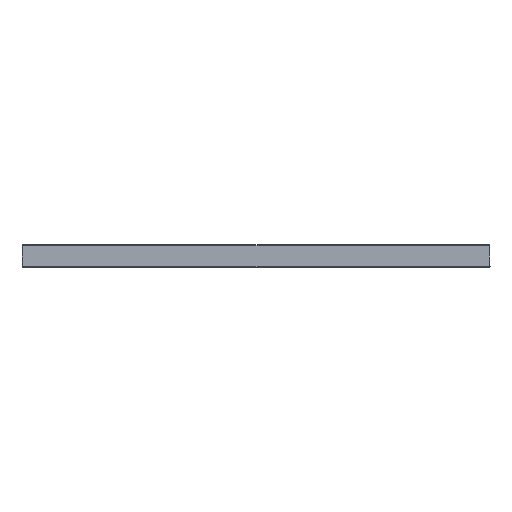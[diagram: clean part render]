
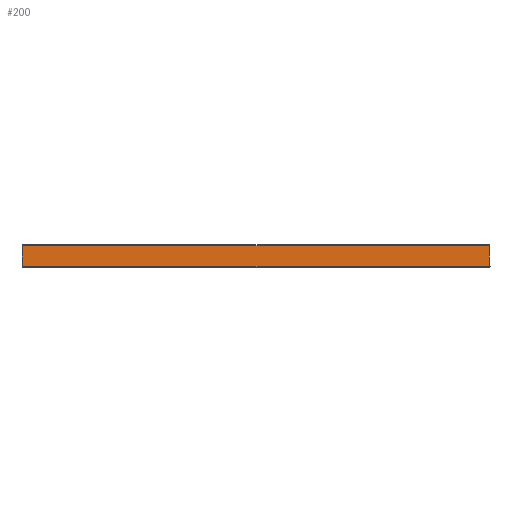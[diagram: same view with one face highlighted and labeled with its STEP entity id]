
A CAD part, front view. The second image highlights one B-rep face of the part: STEP entity #200.
In plain terms, the highlighted planar face has unit normal (0, -1, 0.009).
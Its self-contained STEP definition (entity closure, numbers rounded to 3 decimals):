
#200=ADVANCED_FACE('',(#271),#258,.T.);
#258=PLANE('',#880);
#271=FACE_OUTER_BOUND('',#323,.T.);
#323=EDGE_LOOP('',(#389,#390,#391,#392));
#389=ORIENTED_EDGE('',*,*,#708,.T.);
#390=ORIENTED_EDGE('',*,*,#709,.T.);
#391=ORIENTED_EDGE('',*,*,#710,.T.);
#392=ORIENTED_EDGE('',*,*,#711,.T.);
#635=VERTEX_POINT('',#1115);
#636=VERTEX_POINT('',#1116);
#637=VERTEX_POINT('',#1118);
#638=VERTEX_POINT('',#1120);
#708=EDGE_CURVE('',#635,#636,#831,.T.);
#709=EDGE_CURVE('',#636,#637,#832,.T.);
#710=EDGE_CURVE('',#637,#638,#833,.T.);
#711=EDGE_CURVE('',#638,#635,#834,.T.);
#831=LINE('',#1114,#855);
#832=LINE('',#1117,#856);
#833=LINE('',#1119,#857);
#834=LINE('',#1121,#858);
#855=VECTOR('',#951,1.);
#856=VECTOR('',#952,1.);
#857=VECTOR('',#953,1.);
#858=VECTOR('',#954,1.);
#880=AXIS2_PLACEMENT_3D('',#1122,#955,#956);
#951=DIRECTION('',(-0.009,0.009,1.));
#952=DIRECTION('',(-1.,0.,0.));
#953=DIRECTION('',(-0.009,-0.009,-1.));
#954=DIRECTION('',(1.,0.,0.));
#955=DIRECTION('',(0.,-1.,0.009));
#956=DIRECTION('',(0.,-0.009,-1.));
#1114=CARTESIAN_POINT('',(698.947,-699.947,3.099));
#1115=CARTESIAN_POINT('',(698.991,-699.991,-1.991));
#1116=CARTESIAN_POINT('',(698.721,-699.721,29.009));
#1117=CARTESIAN_POINT('',(0.,-699.721,29.009));
#1118=CARTESIAN_POINT('',(1.279,-699.721,29.009));
#1119=CARTESIAN_POINT('',(1.,-700.,-3.009));
#1120=CARTESIAN_POINT('',(1.009,-699.991,-1.991));
#1121=CARTESIAN_POINT('',(699.,-699.991,-1.991));
#1122=CARTESIAN_POINT('',(0.,-700.,-3.));
